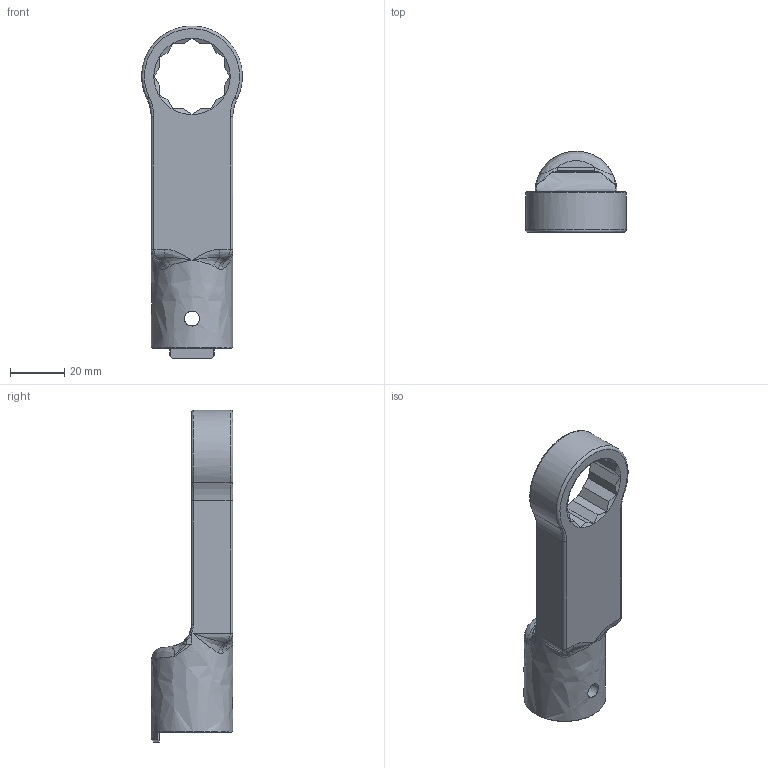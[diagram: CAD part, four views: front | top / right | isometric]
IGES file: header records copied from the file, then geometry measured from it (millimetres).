
Global section: file name: RH22DX24; native system: Autodesk Inventor 2016; preprocessor: unknown; author: Q600; date: 20151110.163634; units: millimetre
Bounding box: 36.97 x 30 x 122 mm (x, y, z)
Volume: 43872.4 mm3; surface area: 14003.9 mm2
Topology: 1 solids, 1 shells, 100 faces, 266 edges, 155 vertices
Faces by surface type: bspline 100
